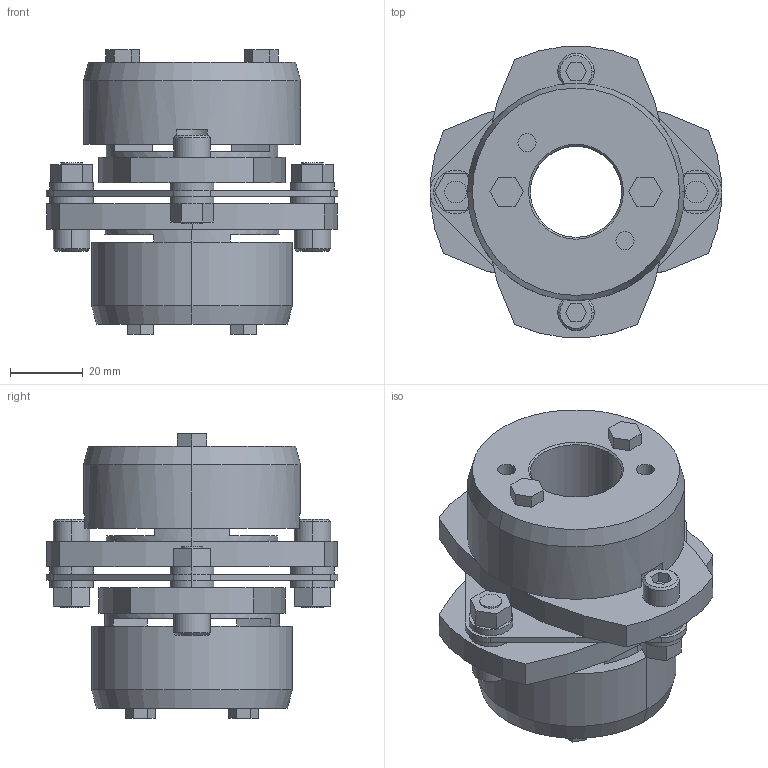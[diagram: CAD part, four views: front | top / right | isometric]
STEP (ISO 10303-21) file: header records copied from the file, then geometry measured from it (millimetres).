
FILE_DESCRIPTION((''),'2;1');
FILE_NAME('LCS-80T7-25×28.stp','2011-09-12T16:33:01',(''),(''),'AutoCAD STEP 2000i','AutoCAD 2000i',', , ');
FILE_SCHEMA(('CONFIG_CONTROL_DESIGN'));
Length unit declared in the file: millimetre
Products named in the file (11): LCS-80T7-24×28; 忣兜1; LC80T7-T028; LC80T7-T024-1; LC80T7-T024; LC80T7-T022; LC80T7-T019-1; LC80T7-T019; LC80T7-T017-1; LC80T7-T017; LCS80-ITA
Assembly tree (10 placements, depth 2):
  LCS-80T7-24×28
    忣兜1
    LC80T7-T028
    LC80T7-T024-1
    LC80T7-T024
    LC80T7-T022
    LC80T7-T019-1
    LC80T7-T019
    LC80T7-T017-1
    LC80T7-T017
    LCS80-ITA
Bounding box: 80 x 79.95 x 78.05 mm (x, y, z)
Volume: 145902 mm3; surface area: 42886.5 mm2
Topology: 1 solids, 1 shells, 236 faces, 580 edges, 380 vertices
Faces by surface type: plane 134, cylinder 82, cone 20
Entity records: 7259 total; most frequent: DIRECTION 1278, CARTESIAN_POINT 1207, ORIENTED_EDGE 1160, EDGE_CURVE 580, AXIS2_PLACEMENT_3D 451, VERTEX_POINT 380, VECTOR 376, LINE 376
